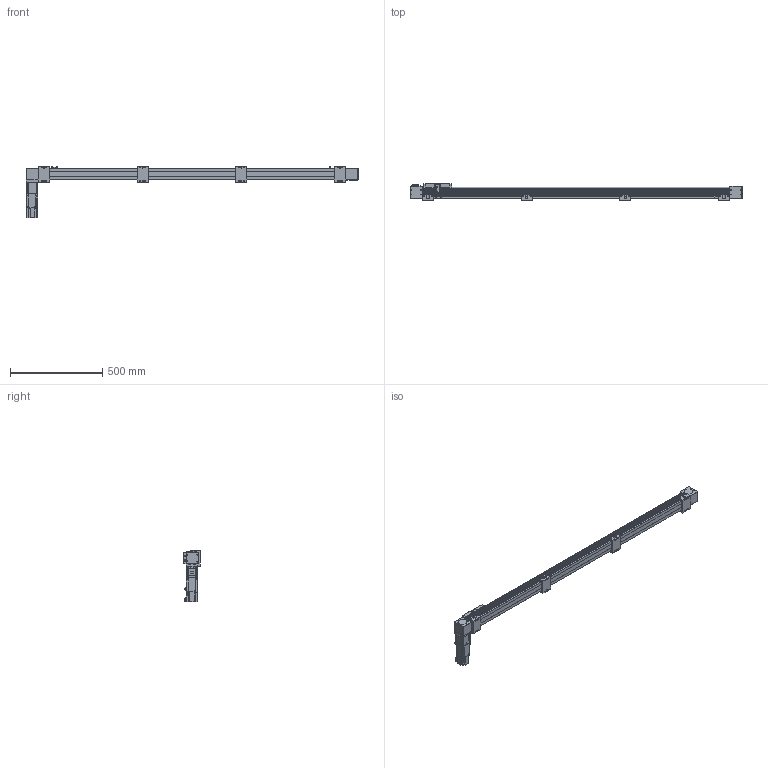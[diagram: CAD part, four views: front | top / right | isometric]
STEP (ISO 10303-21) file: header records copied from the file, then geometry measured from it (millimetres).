
FILE_DESCRIPTION(/* description */ ('STEP AP203'),/* implementation_level */ '2;1');
FILE_NAME(/* name */ 'SK60-P13-S1500-BR-T40-C1-N(0)',/* time_stamp */ '2023-04-06T04:00:06+02:00',/* author */ ('License CC BY-ND 4.0'),/* organization */ ('CADENAS'),/* preprocessor_version */ 'ST-DEVELOPER v19.3',/* originating_system */ 'PARTsolutions',/* authorisation */ ' ');
FILE_SCHEMA (('CONFIG_CONTROL_DESIGN'));
Length unit declared in the file: millimetre
Products named in the file (11): SK60-P13-S1500-BR-T40-C1-N(0); PSC140-sensor; SK60-S450_seat; SK60-S450-BL-C1_slider; SK60_body3; SK60_body6; SK60-BL_body2; T40-p1; SK60_body5; SK60_body4; SK60-S1500-BR-C1_body
Assembly tree (19 placements, depth 2):
  SK60-P13-S1500-BR-T40-C1-N(0)
    PSC140-sensor  x3
    SK60-S450_seat  x4
    SK60-S450-BL-C1_slider
    SK60_body3  x3
    SK60_body6  x2
    SK60-BL_body2  x2
    T40-p1
    SK60_body5
    SK60_body4
    SK60-S1500-BR-C1_body
Bounding box: 1800 x 90 x 279.1 mm (x, y, z)
Volume: 6758627.7 mm3; surface area: 875283.6 mm2
Topology: 19 solids, 23 shells, 922 faces, 2305 edges, 1522 vertices
Faces by surface type: plane 592, cylinder 298, cone 30, torus 2
Full cylindrical faces by diameter (mm): 2.8 x3, 3.3 x4, 4.2 x8, 4.5 x26, 4.6 x3, 4.917 x24, 5 x2, 5.478 x4, 5.5 x27, 6.5 x8, 8 x4, 8.5 x4, 9.988 x4, 10 x16, 13.556 x1, 14 x1, 14.586 x1, 19.692 x1, 38.432 x2, 43 x1, 44 x3, 47 x2, 50 x2
Entity records: 19387 total; most frequent: DIRECTION 3296, CARTESIAN_POINT 3291, ORIENTED_EDGE 3050, EDGE_CURVE 1525, AXIS2_PLACEMENT_3D 1102, LINE 1092, VECTOR 1092, VERTEX_POINT 1077
